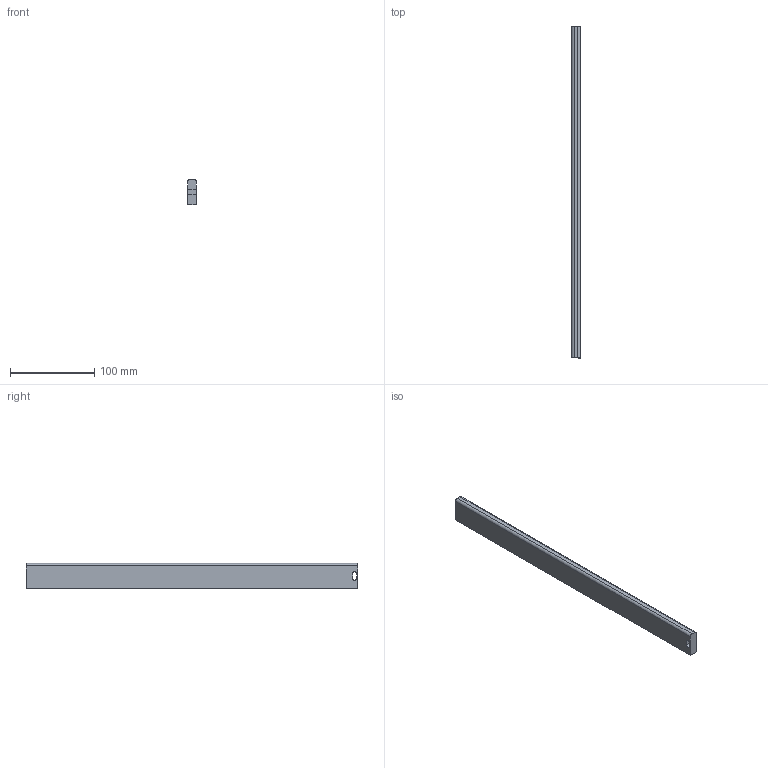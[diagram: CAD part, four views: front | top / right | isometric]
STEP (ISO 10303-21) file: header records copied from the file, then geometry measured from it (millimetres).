
FILE_DESCRIPTION (( 'STEP AP214' ), '1' );
FILE_NAME ('_Seitenreling_S610000200_RL395.step', '2010-09-06T14:51:18', ( 'grass' ), ( '' ), 'SwSTEP 2.0', 'SolidWorks 2010', '' );
FILE_SCHEMA (( 'AUTOMOTIVE_DESIGN' ));
Length unit declared in the file: millimetre
Products named in the file (1): _Seitenreling_S610000200_RL395
Bounding box: 10.5 x 395 x 30 mm (x, y, z)
Volume: 122430.5 mm3; surface area: 31780.7 mm2
Topology: 1 solids, 1 shells, 12 faces, 30 edges, 20 vertices
Faces by surface type: plane 8, cylinder 4
Entity records: 400 total; most frequent: DIRECTION 64, CARTESIAN_POINT 63, ORIENTED_EDGE 60, EDGE_CURVE 30, LINE 22, VECTOR 22, AXIS2_PLACEMENT_3D 21, VERTEX_POINT 20
